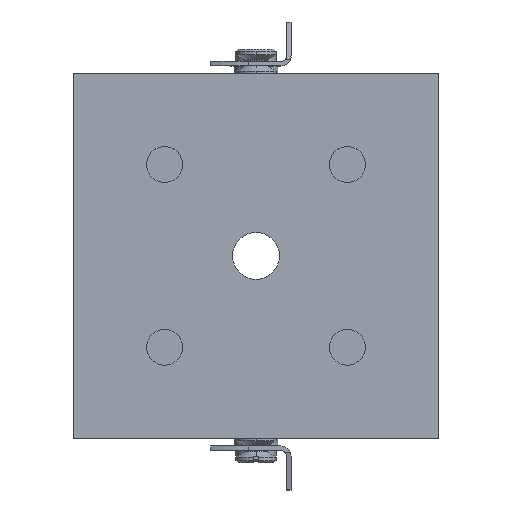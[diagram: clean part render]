
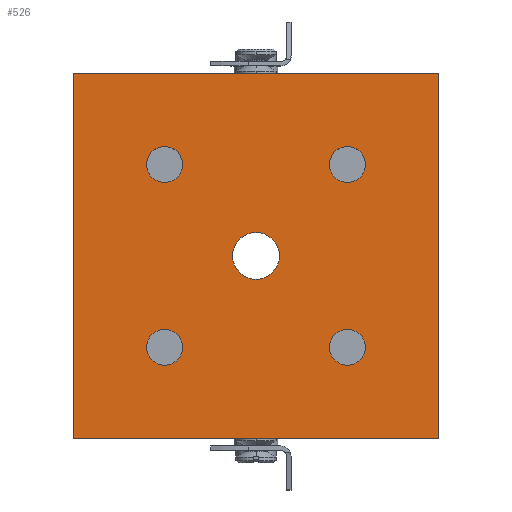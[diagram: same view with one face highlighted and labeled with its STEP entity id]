
A CAD part, top view. The second image highlights one B-rep face of the part: STEP entity #526.
In plain terms, the highlighted planar face has unit normal (0, 0, 1).
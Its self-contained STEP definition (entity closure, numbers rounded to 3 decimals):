
#441 = EDGE_CURVE ( 'NONE', #608, #607, #2835, .T. ) ;
#452 = EDGE_CURVE ( 'NONE', #831, #830, #2878, .T. ) ;
#482 = EDGE_CURVE ( 'NONE', #549, #483, #2916, .T. ) ;
#483 = VERTEX_POINT ( 'NONE', #2912 ) ;
#486 = EDGE_CURVE ( 'NONE', #487, #488, #2905, .T. ) ;
#487 = VERTEX_POINT ( 'NONE', #2901 ) ;
#488 = VERTEX_POINT ( 'NONE', #2900 ) ;
#498 = EDGE_CURVE ( 'NONE', #662, #661, #2954, .T. ) ;
#505 = EDGE_CURVE ( 'NONE', #648, #647, #2942, .T. ) ;
#510 = EDGE_CURVE ( 'NONE', #764, #763, #2938, .T. ) ;
#513 = EDGE_LOOP ( 'NONE', ( #514, #515 ) ) ;
#514 = ORIENTED_EDGE ( 'NONE', *, *, #606, .F. ) ;
#515 = ORIENTED_EDGE ( 'NONE', *, *, #441, .F. ) ;
#516 = EDGE_LOOP ( 'NONE', ( #517, #518 ) ) ;
#517 = ORIENTED_EDGE ( 'NONE', *, *, #762, .F. ) ;
#518 = ORIENTED_EDGE ( 'NONE', *, *, #510, .F. ) ;
#519 = EDGE_LOOP ( 'NONE', ( #520, #521 ) ) ;
#520 = ORIENTED_EDGE ( 'NONE', *, *, #829, .F. ) ;
#521 = ORIENTED_EDGE ( 'NONE', *, *, #452, .F. ) ;
#526 = ADVANCED_FACE ( 'NONE', ( #2926, #2925, #2924, #2923, #2922, #2921 ), #2931, .F. ) ;
#527 = EDGE_LOOP ( 'NONE', ( #528, #529, #530, #531 ) ) ;
#528 = ORIENTED_EDGE ( 'NONE', *, *, #482, .F. ) ;
#529 = ORIENTED_EDGE ( 'NONE', *, *, #548, .F. ) ;
#530 = ORIENTED_EDGE ( 'NONE', *, *, #486, .F. ) ;
#531 = ORIENTED_EDGE ( 'NONE', *, *, #543, .F. ) ;
#532 = EDGE_LOOP ( 'NONE', ( #533, #534 ) ) ;
#533 = ORIENTED_EDGE ( 'NONE', *, *, #646, .F. ) ;
#534 = ORIENTED_EDGE ( 'NONE', *, *, #505, .F. ) ;
#535 = EDGE_LOOP ( 'NONE', ( #589, #590 ) ) ;
#543 = EDGE_CURVE ( 'NONE', #483, #487, #2971, .T. ) ;
#548 = EDGE_CURVE ( 'NONE', #488, #549, #2967, .T. ) ;
#549 = VERTEX_POINT ( 'NONE', #2963 ) ;
#589 = ORIENTED_EDGE ( 'NONE', *, *, #660, .F. ) ;
#590 = ORIENTED_EDGE ( 'NONE', *, *, #498, .F. ) ;
#606 = EDGE_CURVE ( 'NONE', #607, #608, #3059, .T. ) ;
#607 = VERTEX_POINT ( 'NONE', #3054 ) ;
#608 = VERTEX_POINT ( 'NONE', #3053 ) ;
#646 = EDGE_CURVE ( 'NONE', #647, #648, #3190, .T. ) ;
#647 = VERTEX_POINT ( 'NONE', #3185 ) ;
#648 = VERTEX_POINT ( 'NONE', #3184 ) ;
#660 = EDGE_CURVE ( 'NONE', #661, #662, #3162, .T. ) ;
#661 = VERTEX_POINT ( 'NONE', #3217 ) ;
#662 = VERTEX_POINT ( 'NONE', #3216 ) ;
#762 = EDGE_CURVE ( 'NONE', #763, #764, #3578, .T. ) ;
#763 = VERTEX_POINT ( 'NONE', #3573 ) ;
#764 = VERTEX_POINT ( 'NONE', #3572 ) ;
#829 = EDGE_CURVE ( 'NONE', #830, #831, #3721, .T. ) ;
#830 = VERTEX_POINT ( 'NONE', #3716 ) ;
#831 = VERTEX_POINT ( 'NONE', #3715 ) ;
#2827 = DIRECTION ( 'NONE',  ( -1., 0., 0. ) ) ;
#2828 = DIRECTION ( 'NONE',  ( 0., 0., 1. ) ) ;
#2829 = CARTESIAN_POINT ( 'NONE',  ( 37.5, 37.5, 22.003 ) ) ;
#2830 = AXIS2_PLACEMENT_3D ( 'NONE', #2829, #2828, #2827 ) ;
#2835 = CIRCLE ( 'NONE', #2830, 2.459 ) ;
#2875 = DIRECTION ( 'NONE',  ( -1., 0., 0. ) ) ;
#2876 = DIRECTION ( 'NONE',  ( 0., 0., 1. ) ) ;
#2877 = AXIS2_PLACEMENT_3D ( 'NONE', #2883, #2876, #2875 ) ;
#2878 = CIRCLE ( 'NONE', #2877, 2.459 ) ;
#2883 = CARTESIAN_POINT ( 'NONE',  ( 12.5, 37.5, 22.003 ) ) ;
#2900 = CARTESIAN_POINT ( 'NONE',  ( 0., 50., 22.003 ) ) ;
#2901 = CARTESIAN_POINT ( 'NONE',  ( 0., 0., 22.003 ) ) ;
#2902 = DIRECTION ( 'NONE',  ( 0., 1., 0. ) ) ;
#2903 = VECTOR ( 'NONE', #2902, 1000. ) ;
#2904 = CARTESIAN_POINT ( 'NONE',  ( 0., 25., 22.003 ) ) ;
#2905 = LINE ( 'NONE', #2904, #2903 ) ;
#2912 = CARTESIAN_POINT ( 'NONE',  ( 50., 0., 22.003 ) ) ;
#2913 = DIRECTION ( 'NONE',  ( 0., -1., 0. ) ) ;
#2914 = VECTOR ( 'NONE', #2913, 1000. ) ;
#2915 = CARTESIAN_POINT ( 'NONE',  ( 50., 25., 22.003 ) ) ;
#2916 = LINE ( 'NONE', #2915, #2914 ) ;
#2921 = FACE_BOUND ( 'NONE', #519, .T. ) ;
#2922 = FACE_BOUND ( 'NONE', #516, .T. ) ;
#2923 = FACE_BOUND ( 'NONE', #513, .T. ) ;
#2924 = FACE_BOUND ( 'NONE', #535, .T. ) ;
#2925 = FACE_BOUND ( 'NONE', #532, .T. ) ;
#2926 = FACE_OUTER_BOUND ( 'NONE', #527, .T. ) ;
#2931 = PLANE ( 'NONE',  #2986 ) ;
#2934 = DIRECTION ( 'NONE',  ( -1., 0., 0. ) ) ;
#2935 = DIRECTION ( 'NONE',  ( 0., 0., 1. ) ) ;
#2936 = CARTESIAN_POINT ( 'NONE',  ( 37.5, 12.5, 22.003 ) ) ;
#2937 = AXIS2_PLACEMENT_3D ( 'NONE', #2936, #2935, #2934 ) ;
#2938 = CIRCLE ( 'NONE', #2937, 2.459 ) ;
#2939 = DIRECTION ( 'NONE',  ( -1., 0., 0. ) ) ;
#2940 = DIRECTION ( 'NONE',  ( 0., 0., 1. ) ) ;
#2941 = AXIS2_PLACEMENT_3D ( 'NONE', #2947, #2940, #2939 ) ;
#2942 = CIRCLE ( 'NONE', #2941, 3.2 ) ;
#2947 = CARTESIAN_POINT ( 'NONE',  ( 25., 25., 22.003 ) ) ;
#2950 = DIRECTION ( 'NONE',  ( -1., 0., 0. ) ) ;
#2951 = DIRECTION ( 'NONE',  ( 0., 0., 1. ) ) ;
#2952 = CARTESIAN_POINT ( 'NONE',  ( 12.5, 12.5, 22.003 ) ) ;
#2953 = AXIS2_PLACEMENT_3D ( 'NONE', #2952, #2951, #2950 ) ;
#2954 = CIRCLE ( 'NONE', #2953, 2.459 ) ;
#2963 = CARTESIAN_POINT ( 'NONE',  ( 50., 50., 22.003 ) ) ;
#2964 = DIRECTION ( 'NONE',  ( 1., 0., 0. ) ) ;
#2965 = VECTOR ( 'NONE', #2964, 1000. ) ;
#2966 = CARTESIAN_POINT ( 'NONE',  ( 25., 50., 22.003 ) ) ;
#2967 = LINE ( 'NONE', #2966, #2965 ) ;
#2968 = DIRECTION ( 'NONE',  ( -1., 0., 0. ) ) ;
#2969 = VECTOR ( 'NONE', #2968, 1000. ) ;
#2970 = CARTESIAN_POINT ( 'NONE',  ( 25., 0., 22.003 ) ) ;
#2971 = LINE ( 'NONE', #2970, #2969 ) ;
#2983 = DIRECTION ( 'NONE',  ( -1., 0., 0. ) ) ;
#2984 = DIRECTION ( 'NONE',  ( 0., 0., -1. ) ) ;
#2985 = CARTESIAN_POINT ( 'NONE',  ( 25., 25., 22.003 ) ) ;
#2986 = AXIS2_PLACEMENT_3D ( 'NONE', #2985, #2984, #2983 ) ;
#3053 = CARTESIAN_POINT ( 'NONE',  ( 39.959, 37.5, 22.003 ) ) ;
#3054 = CARTESIAN_POINT ( 'NONE',  ( 35.042, 37.5, 22.003 ) ) ;
#3055 = DIRECTION ( 'NONE',  ( -1., 0., 0. ) ) ;
#3056 = DIRECTION ( 'NONE',  ( 0., 0., 1. ) ) ;
#3057 = CARTESIAN_POINT ( 'NONE',  ( 37.5, 37.5, 22.003 ) ) ;
#3058 = AXIS2_PLACEMENT_3D ( 'NONE', #3057, #3056, #3055 ) ;
#3059 = CIRCLE ( 'NONE', #3058, 2.459 ) ;
#3160 = CARTESIAN_POINT ( 'NONE',  ( 12.5, 12.5, 22.003 ) ) ;
#3161 = AXIS2_PLACEMENT_3D ( 'NONE', #3160, #3219, #3218 ) ;
#3162 = CIRCLE ( 'NONE', #3161, 2.459 ) ;
#3184 = CARTESIAN_POINT ( 'NONE',  ( 28.2, 25., 22.003 ) ) ;
#3185 = CARTESIAN_POINT ( 'NONE',  ( 21.8, 25., 22.003 ) ) ;
#3186 = DIRECTION ( 'NONE',  ( -1., 0., 0. ) ) ;
#3187 = DIRECTION ( 'NONE',  ( 0., 0., 1. ) ) ;
#3188 = CARTESIAN_POINT ( 'NONE',  ( 25., 25., 22.003 ) ) ;
#3189 = AXIS2_PLACEMENT_3D ( 'NONE', #3188, #3187, #3186 ) ;
#3190 = CIRCLE ( 'NONE', #3189, 3.2 ) ;
#3216 = CARTESIAN_POINT ( 'NONE',  ( 14.959, 12.5, 22.003 ) ) ;
#3217 = CARTESIAN_POINT ( 'NONE',  ( 10.042, 12.5, 22.003 ) ) ;
#3218 = DIRECTION ( 'NONE',  ( -1., 0., 0. ) ) ;
#3219 = DIRECTION ( 'NONE',  ( 0., 0., 1. ) ) ;
#3572 = CARTESIAN_POINT ( 'NONE',  ( 39.959, 12.5, 22.003 ) ) ;
#3573 = CARTESIAN_POINT ( 'NONE',  ( 35.042, 12.5, 22.003 ) ) ;
#3574 = DIRECTION ( 'NONE',  ( -1., 0., 0. ) ) ;
#3575 = DIRECTION ( 'NONE',  ( 0., 0., 1. ) ) ;
#3576 = CARTESIAN_POINT ( 'NONE',  ( 37.5, 12.5, 22.003 ) ) ;
#3577 = AXIS2_PLACEMENT_3D ( 'NONE', #3576, #3575, #3574 ) ;
#3578 = CIRCLE ( 'NONE', #3577, 2.459 ) ;
#3715 = CARTESIAN_POINT ( 'NONE',  ( 14.959, 37.5, 22.003 ) ) ;
#3716 = CARTESIAN_POINT ( 'NONE',  ( 10.042, 37.5, 22.003 ) ) ;
#3717 = DIRECTION ( 'NONE',  ( -1., 0., 0. ) ) ;
#3718 = DIRECTION ( 'NONE',  ( 0., 0., 1. ) ) ;
#3719 = CARTESIAN_POINT ( 'NONE',  ( 12.5, 37.5, 22.003 ) ) ;
#3720 = AXIS2_PLACEMENT_3D ( 'NONE', #3719, #3718, #3717 ) ;
#3721 = CIRCLE ( 'NONE', #3720, 2.459 ) ;
